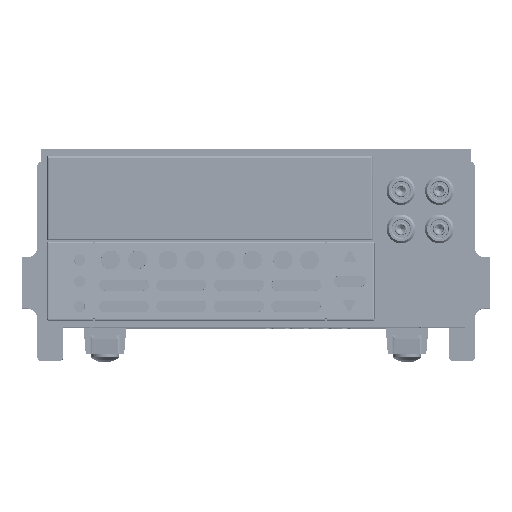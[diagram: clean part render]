
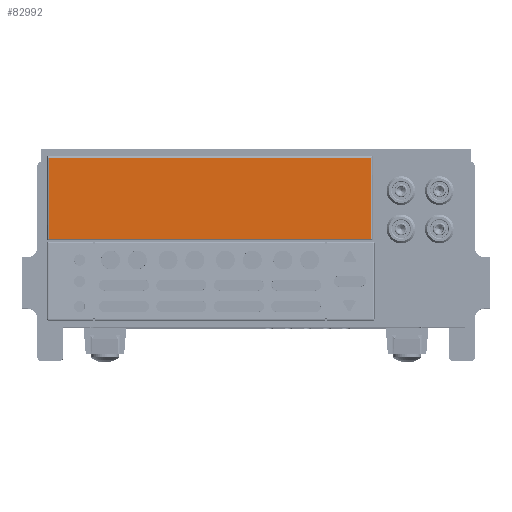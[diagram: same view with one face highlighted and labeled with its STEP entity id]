
A CAD part, top view. The second image highlights one B-rep face of the part: STEP entity #82992.
In plain terms, the highlighted planar face has unit normal (0, 0, 1).
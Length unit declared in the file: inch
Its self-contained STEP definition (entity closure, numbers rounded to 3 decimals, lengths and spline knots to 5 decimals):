
#82781=DIRECTION('',(1.,0.,0.));
#82782=VECTOR('',#82781,6.298);
#82783=CARTESIAN_POINT('',(0.035,0.035,0.093));
#82784=LINE('',#82783,#82782);
#82798=DIRECTION('',(0.,-1.,0.));
#82799=VECTOR('',#82798,1.578);
#82800=CARTESIAN_POINT('',(0.035,1.613,0.093));
#82801=LINE('',#82800,#82799);
#82824=DIRECTION('',(-1.,0.,0.));
#82825=VECTOR('',#82824,6.298);
#82826=CARTESIAN_POINT('',(6.333,1.613,0.093));
#82827=LINE('',#82826,#82825);
#82842=DIRECTION('',(0.,1.,0.));
#82843=VECTOR('',#82842,1.578);
#82844=CARTESIAN_POINT('',(6.333,0.035,0.093));
#82845=LINE('',#82844,#82843);
#82871=CARTESIAN_POINT('',(6.333,0.035,0.093));
#82872=CARTESIAN_POINT('',(6.333,1.613,0.093));
#82873=VERTEX_POINT('',#82871);
#82874=VERTEX_POINT('',#82872);
#82879=CARTESIAN_POINT('',(0.035,0.035,0.093));
#82880=VERTEX_POINT('',#82879);
#82883=CARTESIAN_POINT('',(0.035,1.613,0.093));
#82884=VERTEX_POINT('',#82883);
#82978=CARTESIAN_POINT('',(0.,0.,0.093));
#82979=DIRECTION('',(0.,0.,1.));
#82980=DIRECTION('',(1.,0.,0.));
#82981=AXIS2_PLACEMENT_3D('',#82978,#82979,#82980);
#82982=PLANE('',#82981);
#82984=ORIENTED_EDGE('',*,*,#82983,.F.);
#82986=ORIENTED_EDGE('',*,*,#82985,.F.);
#82988=ORIENTED_EDGE('',*,*,#82987,.F.);
#82989=ORIENTED_EDGE('',*,*,#82968,.F.);
#82990=EDGE_LOOP('',(#82984,#82986,#82988,#82989));
#82991=FACE_OUTER_BOUND('',#82990,.F.);
#82992=ADVANCED_FACE('',(#82991),#82982,.T.);
#82968=EDGE_CURVE('',#82880,#82873,#82784,.T.);
#82983=EDGE_CURVE('',#82884,#82880,#82801,.T.);
#82985=EDGE_CURVE('',#82874,#82884,#82827,.T.);
#82987=EDGE_CURVE('',#82873,#82874,#82845,.T.);
